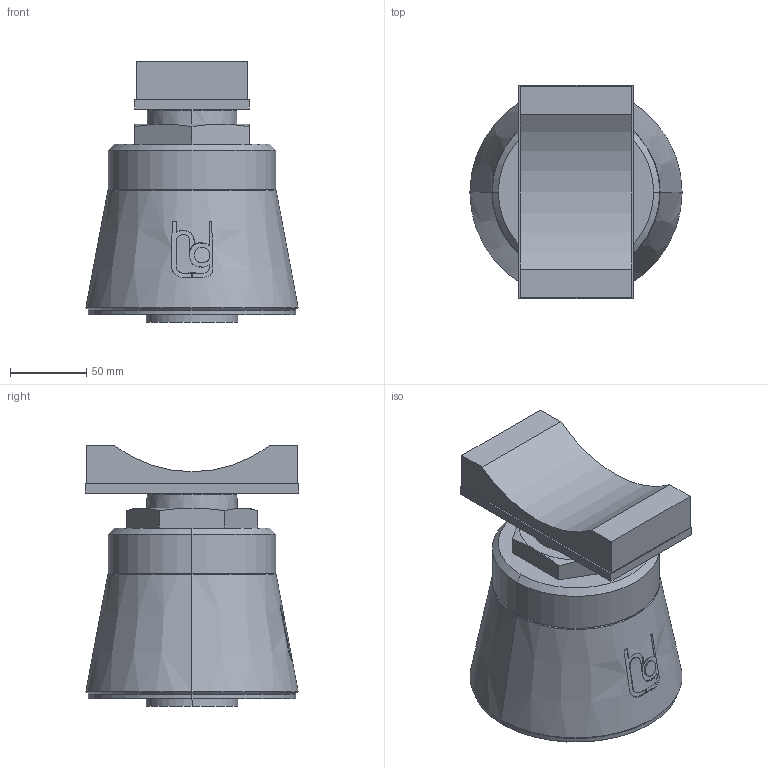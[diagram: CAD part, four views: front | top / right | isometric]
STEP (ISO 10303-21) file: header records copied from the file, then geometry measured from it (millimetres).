
FILE_DESCRIPTION(('STEP AP214'),'1');
FILE_NAME('RSRFS2_DN150.stp','2018-07-02T06:05:08',(' '),(' '),'Spatial InterOp 3D',' ',' ');
FILE_SCHEMA(('automotive_design'));
Length unit declared in the file: millimetre
Products named in the file (6): 1; 2; 3; 4; 5; 6
Bounding box: 139.44 x 140 x 171 mm (x, y, z)
Volume: 1970443.9 mm3; surface area: 205338.5 mm2
Topology: 6 solids, 6 shells, 127 faces, 313 edges, 202 vertices
Faces by surface type: plane 59, cylinder 37, cone 27, torus 4
Entity records: 5434 total; most frequent: CARTESIAN_POINT 1283, DIRECTION 639, ORIENTED_EDGE 626, EDGE_CURVE 313, AXIS2_PLACEMENT_3D 242, VERTEX_POINT 202, LINE 155, VECTOR 155
